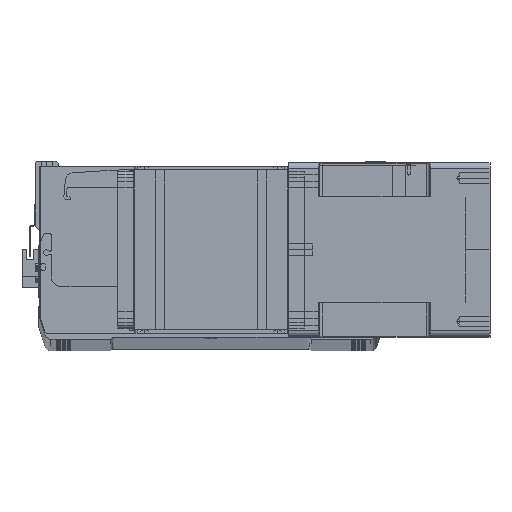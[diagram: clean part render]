
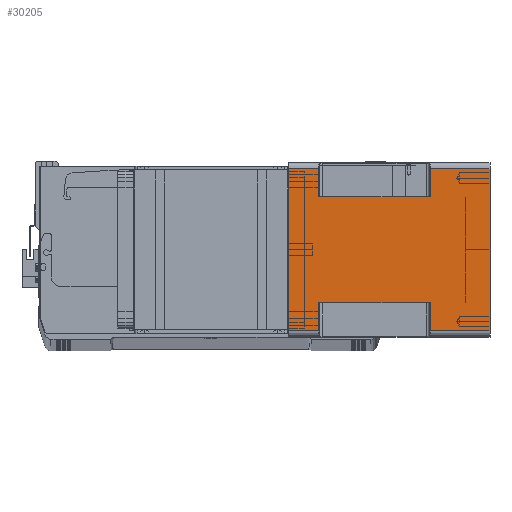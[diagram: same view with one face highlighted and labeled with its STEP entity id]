
A CAD part, top view. The second image highlights one B-rep face of the part: STEP entity #30205.
In plain terms, the highlighted planar face has unit normal (0, 0, 1) as drawn and (1, 0, 0) by its records, which use the part's own axes.
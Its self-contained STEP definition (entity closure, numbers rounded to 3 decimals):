
#279 = VECTOR ( 'NONE', #7038, 1000. ) ;
#841 = VECTOR ( 'NONE', #31860, 1000. ) ;
#951 = VECTOR ( 'NONE', #22643, 1000. ) ;
#973 = LINE ( 'NONE', #28878, #19294 ) ;
#1646 = CARTESIAN_POINT ( 'NONE',  ( 71., 66., 0. ) ) ;
#1814 = VERTEX_POINT ( 'NONE', #34560 ) ;
#2944 = DIRECTION ( 'NONE',  ( 0., 1., 0. ) ) ;
#3190 = EDGE_CURVE ( 'NONE', #34436, #25010, #3809, .T. ) ;
#3232 = ORIENTED_EDGE ( 'NONE', *, *, #3190, .T. ) ;
#3706 = CARTESIAN_POINT ( 'NONE',  ( 71., -43., -24.5 ) ) ;
#3809 = LINE ( 'NONE', #28768, #841 ) ;
#3964 = VECTOR ( 'NONE', #4669, 1000. ) ;
#4669 = DIRECTION ( 'NONE',  ( 0., 1., 0. ) ) ;
#5417 = CARTESIAN_POINT ( 'NONE',  ( 71., 66., -164. ) ) ;
#6317 = DIRECTION ( 'NONE',  ( 1., 0., 0. ) ) ;
#6854 = EDGE_CURVE ( 'NONE', #36855, #15147, #973, .T. ) ;
#6916 = CARTESIAN_POINT ( 'NONE',  ( 71., -66., -115.5 ) ) ;
#7013 = CARTESIAN_POINT ( 'NONE',  ( 71., -66., 0. ) ) ;
#7038 = DIRECTION ( 'NONE',  ( 0., 0., 1. ) ) ;
#7219 = EDGE_CURVE ( 'NONE', #28662, #25010, #36156, .T. ) ;
#7262 = ORIENTED_EDGE ( 'NONE', *, *, #9283, .T. ) ;
#7701 = LINE ( 'NONE', #19576, #279 ) ;
#8340 = CARTESIAN_POINT ( 'NONE',  ( 71., 66., -164. ) ) ;
#9115 = CARTESIAN_POINT ( 'NONE',  ( 71., -43., -24.5 ) ) ;
#9283 = EDGE_CURVE ( 'NONE', #23298, #33478, #21344, .T. ) ;
#9447 = CARTESIAN_POINT ( 'NONE',  ( 71., -66., -164. ) ) ;
#9911 = EDGE_CURVE ( 'NONE', #23298, #39321, #27232, .T. ) ;
#9951 = DIRECTION ( 'NONE',  ( 0., 1., 0. ) ) ;
#10794 = EDGE_CURVE ( 'NONE', #23471, #39321, #21625, .T. ) ;
#11016 = AXIS2_PLACEMENT_3D ( 'NONE', #21763, #6317, #2944 ) ;
#12279 = DIRECTION ( 'NONE',  ( 0., 0., -1. ) ) ;
#12694 = PLANE ( 'NONE',  #11016 ) ;
#13229 = ORIENTED_EDGE ( 'NONE', *, *, #6854, .F. ) ;
#13420 = LINE ( 'NONE', #17240, #3964 ) ;
#15147 = VERTEX_POINT ( 'NONE', #1646 ) ;
#15163 = CARTESIAN_POINT ( 'NONE',  ( 71., -43., -115.5 ) ) ;
#15460 = VECTOR ( 'NONE', #37980, 1000. ) ;
#15783 = CARTESIAN_POINT ( 'NONE',  ( 71., 43., -115.5 ) ) ;
#17240 = CARTESIAN_POINT ( 'NONE',  ( 71., -66., -24.5 ) ) ;
#19294 = VECTOR ( 'NONE', #9951, 1000. ) ;
#19576 = CARTESIAN_POINT ( 'NONE',  ( 71., -43., -164. ) ) ;
#19593 = CARTESIAN_POINT ( 'NONE',  ( 71., 66., -24.5 ) ) ;
#19793 = ORIENTED_EDGE ( 'NONE', *, *, #39201, .T. ) ;
#20272 = VECTOR ( 'NONE', #27000, 1000. ) ;
#21182 = CARTESIAN_POINT ( 'NONE',  ( 71., 43., -24.5 ) ) ;
#21344 = LINE ( 'NONE', #26777, #35724 ) ;
#21625 = LINE ( 'NONE', #21689, #39996 ) ;
#21689 = CARTESIAN_POINT ( 'NONE',  ( 71., -66., -115.5 ) ) ;
#21727 = VECTOR ( 'NONE', #12279, 1000. ) ;
#21763 = CARTESIAN_POINT ( 'NONE',  ( 71., -66., -164. ) ) ;
#21854 = ORIENTED_EDGE ( 'NONE', *, *, #28629, .T. ) ;
#22579 = ORIENTED_EDGE ( 'NONE', *, *, #7219, .F. ) ;
#22643 = DIRECTION ( 'NONE',  ( 0., 1., 0. ) ) ;
#23150 = FACE_OUTER_BOUND ( 'NONE', #30184, .T. ) ;
#23268 = CARTESIAN_POINT ( 'NONE',  ( 71., 66., -115.5 ) ) ;
#23298 = VERTEX_POINT ( 'NONE', #26115 ) ;
#23471 = VERTEX_POINT ( 'NONE', #15163 ) ;
#23770 = CARTESIAN_POINT ( 'NONE',  ( 71., -66., -164. ) ) ;
#23835 = LINE ( 'NONE', #9447, #15460 ) ;
#24510 = ORIENTED_EDGE ( 'NONE', *, *, #28778, .F. ) ;
#24883 = DIRECTION ( 'NONE',  ( 0., -1., 0. ) ) ;
#25010 = VERTEX_POINT ( 'NONE', #15783 ) ;
#25726 = LINE ( 'NONE', #3706, #951 ) ;
#25744 = VECTOR ( 'NONE', #30494, 1000. ) ;
#26115 = CARTESIAN_POINT ( 'NONE',  ( 71., -66., -164. ) ) ;
#26777 = CARTESIAN_POINT ( 'NONE',  ( 71., -66., -164. ) ) ;
#26840 = VERTEX_POINT ( 'NONE', #9115 ) ;
#27000 = DIRECTION ( 'NONE',  ( 0., 0., 1. ) ) ;
#27232 = LINE ( 'NONE', #23770, #20272 ) ;
#28586 = ORIENTED_EDGE ( 'NONE', *, *, #29551, .T. ) ;
#28629 = EDGE_CURVE ( 'NONE', #29397, #15147, #33213, .T. ) ;
#28662 = VERTEX_POINT ( 'NONE', #21182 ) ;
#28768 = CARTESIAN_POINT ( 'NONE',  ( 71., 43., -115.5 ) ) ;
#28778 = EDGE_CURVE ( 'NONE', #1814, #36855, #23835, .T. ) ;
#28878 = CARTESIAN_POINT ( 'NONE',  ( 71., -66., 0. ) ) ;
#29397 = VERTEX_POINT ( 'NONE', #19593 ) ;
#29551 = EDGE_CURVE ( 'NONE', #28662, #29397, #13420, .T. ) ;
#29981 = DIRECTION ( 'NONE',  ( 0., 1., 0. ) ) ;
#30089 = VECTOR ( 'NONE', #33947, 1000. ) ;
#30184 = EDGE_LOOP ( 'NONE', ( #40037, #39187, #31658, #7262, #19793, #3232, #22579, #28586, #21854, #13229, #24510, #39739 ) ) ;
#30205 = ADVANCED_FACE ( 'NONE', ( #23150 ), #12694, .T. ) ;
#30494 = DIRECTION ( 'NONE',  ( 0., 0., 1. ) ) ;
#31595 = LINE ( 'NONE', #5417, #30089 ) ;
#31658 = ORIENTED_EDGE ( 'NONE', *, *, #9911, .F. ) ;
#31860 = DIRECTION ( 'NONE',  ( 0., -1., 0. ) ) ;
#32201 = EDGE_CURVE ( 'NONE', #23471, #26840, #7701, .T. ) ;
#32925 = CARTESIAN_POINT ( 'NONE',  ( 71., 66., -164. ) ) ;
#33213 = LINE ( 'NONE', #8340, #25744 ) ;
#33478 = VERTEX_POINT ( 'NONE', #32925 ) ;
#33776 = EDGE_CURVE ( 'NONE', #1814, #26840, #25726, .T. ) ;
#33947 = DIRECTION ( 'NONE',  ( 0., 0., 1. ) ) ;
#34436 = VERTEX_POINT ( 'NONE', #23268 ) ;
#34560 = CARTESIAN_POINT ( 'NONE',  ( 71., -66., -24.5 ) ) ;
#35724 = VECTOR ( 'NONE', #29981, 1000. ) ;
#36156 = LINE ( 'NONE', #41067, #21727 ) ;
#36855 = VERTEX_POINT ( 'NONE', #7013 ) ;
#37980 = DIRECTION ( 'NONE',  ( 0., 0., 1. ) ) ;
#39187 = ORIENTED_EDGE ( 'NONE', *, *, #10794, .T. ) ;
#39201 = EDGE_CURVE ( 'NONE', #33478, #34436, #31595, .T. ) ;
#39321 = VERTEX_POINT ( 'NONE', #6916 ) ;
#39739 = ORIENTED_EDGE ( 'NONE', *, *, #33776, .T. ) ;
#39996 = VECTOR ( 'NONE', #24883, 1000. ) ;
#40037 = ORIENTED_EDGE ( 'NONE', *, *, #32201, .F. ) ;
#41067 = CARTESIAN_POINT ( 'NONE',  ( 71., 43., -164. ) ) ;
